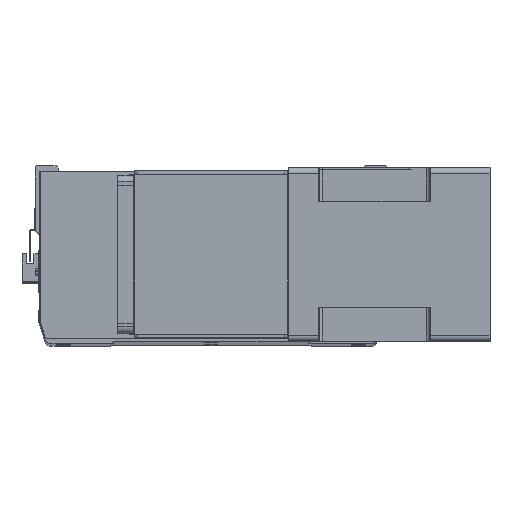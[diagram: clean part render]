
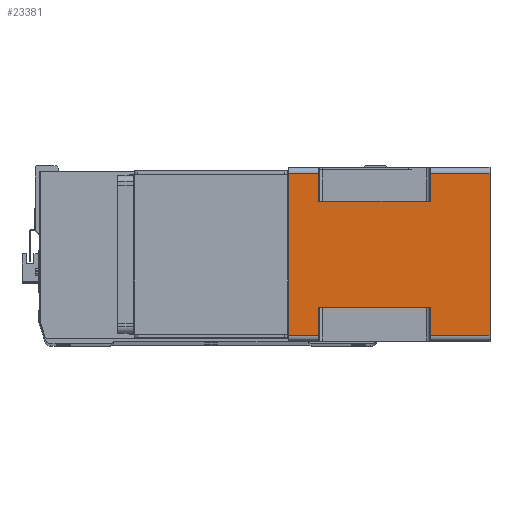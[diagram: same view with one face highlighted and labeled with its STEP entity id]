
A CAD part, top view. The second image highlights one B-rep face of the part: STEP entity #23381.
In plain terms, the highlighted planar face has unit normal (0, 0, 1) as drawn and (1, 0, 0) by its records, which use the part's own axes.
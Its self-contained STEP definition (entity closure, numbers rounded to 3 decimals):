
#41 = LINE ( 'NONE', #28192, #768 ) ;
#680 = VECTOR ( 'NONE', #22872, 1000. ) ;
#768 = VECTOR ( 'NONE', #4381, 1000. ) ;
#903 = LINE ( 'NONE', #5620, #7495 ) ;
#1572 = DIRECTION ( 'NONE',  ( 0., 0., 1. ) ) ;
#1833 = LINE ( 'NONE', #13120, #15141 ) ;
#1846 = CARTESIAN_POINT ( 'NONE',  ( 71., -66., -24.5 ) ) ;
#1978 = LINE ( 'NONE', #22555, #16372 ) ;
#2180 = ORIENTED_EDGE ( 'NONE', *, *, #3320, .F. ) ;
#2503 = AXIS2_PLACEMENT_3D ( 'NONE', #4160, #6737, #16171 ) ;
#2506 = LINE ( 'NONE', #29899, #680 ) ;
#3124 = LINE ( 'NONE', #22709, #28937 ) ;
#3320 = EDGE_CURVE ( 'NONE', #14531, #5798, #30304, .T. ) ;
#3717 = CARTESIAN_POINT ( 'NONE',  ( 71., -66., -164. ) ) ;
#4160 = CARTESIAN_POINT ( 'NONE',  ( 71., -66., -164. ) ) ;
#4239 = DIRECTION ( 'NONE',  ( 0., -1., 0. ) ) ;
#4381 = DIRECTION ( 'NONE',  ( 0., 1., 0. ) ) ;
#5429 = ORIENTED_EDGE ( 'NONE', *, *, #15330, .T. ) ;
#5522 = VERTEX_POINT ( 'NONE', #28682 ) ;
#5620 = CARTESIAN_POINT ( 'NONE',  ( 71., -66., -164. ) ) ;
#5627 = VECTOR ( 'NONE', #27802, 1000. ) ;
#5798 = VERTEX_POINT ( 'NONE', #22136 ) ;
#6308 = CARTESIAN_POINT ( 'NONE',  ( 71., 66., 0. ) ) ;
#6737 = DIRECTION ( 'NONE',  ( 1., 0., 0. ) ) ;
#6972 = EDGE_CURVE ( 'NONE', #15113, #18912, #1978, .T. ) ;
#7495 = VECTOR ( 'NONE', #22143, 1000. ) ;
#9070 = VERTEX_POINT ( 'NONE', #3717 ) ;
#9086 = CARTESIAN_POINT ( 'NONE',  ( 71., -66., -164. ) ) ;
#9128 = ORIENTED_EDGE ( 'NONE', *, *, #19337, .F. ) ;
#9387 = LINE ( 'NONE', #9086, #15348 ) ;
#9460 = DIRECTION ( 'NONE',  ( 0., -1., 0. ) ) ;
#9745 = CARTESIAN_POINT ( 'NONE',  ( 71., -66., -115.5 ) ) ;
#9843 = CARTESIAN_POINT ( 'NONE',  ( 71., -43., -24.5 ) ) ;
#10536 = EDGE_LOOP ( 'NONE', ( #21468, #5429, #25498, #21202, #14159, #27890, #2180, #22918, #15140, #16545, #9128, #13262 ) ) ;
#10914 = EDGE_CURVE ( 'NONE', #15261, #18912, #41, .T. ) ;
#11032 = DIRECTION ( 'NONE',  ( 0., 0., 1. ) ) ;
#11124 = DIRECTION ( 'NONE',  ( 0., 1., 0. ) ) ;
#11381 = CARTESIAN_POINT ( 'NONE',  ( 71., 43., -164. ) ) ;
#11661 = CARTESIAN_POINT ( 'NONE',  ( 71., -66., -115.5 ) ) ;
#11782 = VECTOR ( 'NONE', #9460, 1000. ) ;
#12636 = CARTESIAN_POINT ( 'NONE',  ( 71., 43., -24.5 ) ) ;
#13101 = EDGE_CURVE ( 'NONE', #5522, #5798, #3124, .T. ) ;
#13120 = CARTESIAN_POINT ( 'NONE',  ( 71., 66., -164. ) ) ;
#13262 = ORIENTED_EDGE ( 'NONE', *, *, #10914, .T. ) ;
#13713 = EDGE_CURVE ( 'NONE', #28066, #5522, #24450, .T. ) ;
#14159 = ORIENTED_EDGE ( 'NONE', *, *, #13713, .T. ) ;
#14531 = VERTEX_POINT ( 'NONE', #12636 ) ;
#15113 = VERTEX_POINT ( 'NONE', #22669 ) ;
#15140 = ORIENTED_EDGE ( 'NONE', *, *, #26791, .T. ) ;
#15141 = VECTOR ( 'NONE', #1572, 1000. ) ;
#15261 = VERTEX_POINT ( 'NONE', #25531 ) ;
#15330 = EDGE_CURVE ( 'NONE', #15113, #24369, #18045, .T. ) ;
#15348 = VECTOR ( 'NONE', #27823, 1000. ) ;
#16068 = PLANE ( 'NONE',  #2503 ) ;
#16171 = DIRECTION ( 'NONE',  ( 0., 1., 0. ) ) ;
#16329 = EDGE_CURVE ( 'NONE', #9070, #28066, #9387, .T. ) ;
#16372 = VECTOR ( 'NONE', #11032, 1000. ) ;
#16545 = ORIENTED_EDGE ( 'NONE', *, *, #27372, .F. ) ;
#17546 = CARTESIAN_POINT ( 'NONE',  ( 71., -66., -164. ) ) ;
#17686 = VECTOR ( 'NONE', #11124, 1000. ) ;
#18045 = LINE ( 'NONE', #9745, #11782 ) ;
#18575 = CARTESIAN_POINT ( 'NONE',  ( 71., 66., -164. ) ) ;
#18912 = VERTEX_POINT ( 'NONE', #9843 ) ;
#19337 = EDGE_CURVE ( 'NONE', #15261, #26028, #903, .T. ) ;
#21202 = ORIENTED_EDGE ( 'NONE', *, *, #16329, .T. ) ;
#21408 = CARTESIAN_POINT ( 'NONE',  ( 71., 66., -164. ) ) ;
#21468 = ORIENTED_EDGE ( 'NONE', *, *, #6972, .F. ) ;
#21560 = FACE_OUTER_BOUND ( 'NONE', #10536, .T. ) ;
#21991 = VERTEX_POINT ( 'NONE', #22393 ) ;
#22136 = CARTESIAN_POINT ( 'NONE',  ( 71., 43., -115.5 ) ) ;
#22143 = DIRECTION ( 'NONE',  ( 0., 0., 1. ) ) ;
#22147 = LINE ( 'NONE', #17546, #25401 ) ;
#22393 = CARTESIAN_POINT ( 'NONE',  ( 71., 66., -24.5 ) ) ;
#22555 = CARTESIAN_POINT ( 'NONE',  ( 71., -43., -164. ) ) ;
#22559 = VECTOR ( 'NONE', #27825, 1000. ) ;
#22669 = CARTESIAN_POINT ( 'NONE',  ( 71., -43., -115.5 ) ) ;
#22709 = CARTESIAN_POINT ( 'NONE',  ( 71., 43., -115.5 ) ) ;
#22872 = DIRECTION ( 'NONE',  ( 0., 1., 0. ) ) ;
#22918 = ORIENTED_EDGE ( 'NONE', *, *, #24848, .T. ) ;
#23381 = ADVANCED_FACE ( 'NONE', ( #21560 ), #16068, .T. ) ;
#24369 = VERTEX_POINT ( 'NONE', #11661 ) ;
#24450 = LINE ( 'NONE', #18575, #5627 ) ;
#24668 = LINE ( 'NONE', #1846, #17686 ) ;
#24848 = EDGE_CURVE ( 'NONE', #14531, #21991, #24668, .T. ) ;
#25401 = VECTOR ( 'NONE', #28959, 1000. ) ;
#25498 = ORIENTED_EDGE ( 'NONE', *, *, #26741, .F. ) ;
#25531 = CARTESIAN_POINT ( 'NONE',  ( 71., -66., -24.5 ) ) ;
#26028 = VERTEX_POINT ( 'NONE', #30290 ) ;
#26741 = EDGE_CURVE ( 'NONE', #9070, #24369, #22147, .T. ) ;
#26791 = EDGE_CURVE ( 'NONE', #21991, #28367, #1833, .T. ) ;
#27372 = EDGE_CURVE ( 'NONE', #26028, #28367, #2506, .T. ) ;
#27802 = DIRECTION ( 'NONE',  ( 0., 0., 1. ) ) ;
#27823 = DIRECTION ( 'NONE',  ( 0., 1., 0. ) ) ;
#27825 = DIRECTION ( 'NONE',  ( 0., 0., -1. ) ) ;
#27890 = ORIENTED_EDGE ( 'NONE', *, *, #13101, .T. ) ;
#28066 = VERTEX_POINT ( 'NONE', #21408 ) ;
#28192 = CARTESIAN_POINT ( 'NONE',  ( 71., -43., -24.5 ) ) ;
#28367 = VERTEX_POINT ( 'NONE', #6308 ) ;
#28682 = CARTESIAN_POINT ( 'NONE',  ( 71., 66., -115.5 ) ) ;
#28937 = VECTOR ( 'NONE', #4239, 1000. ) ;
#28959 = DIRECTION ( 'NONE',  ( 0., 0., 1. ) ) ;
#29899 = CARTESIAN_POINT ( 'NONE',  ( 71., -66., 0. ) ) ;
#30290 = CARTESIAN_POINT ( 'NONE',  ( 71., -66., 0. ) ) ;
#30304 = LINE ( 'NONE', #11381, #22559 ) ;
